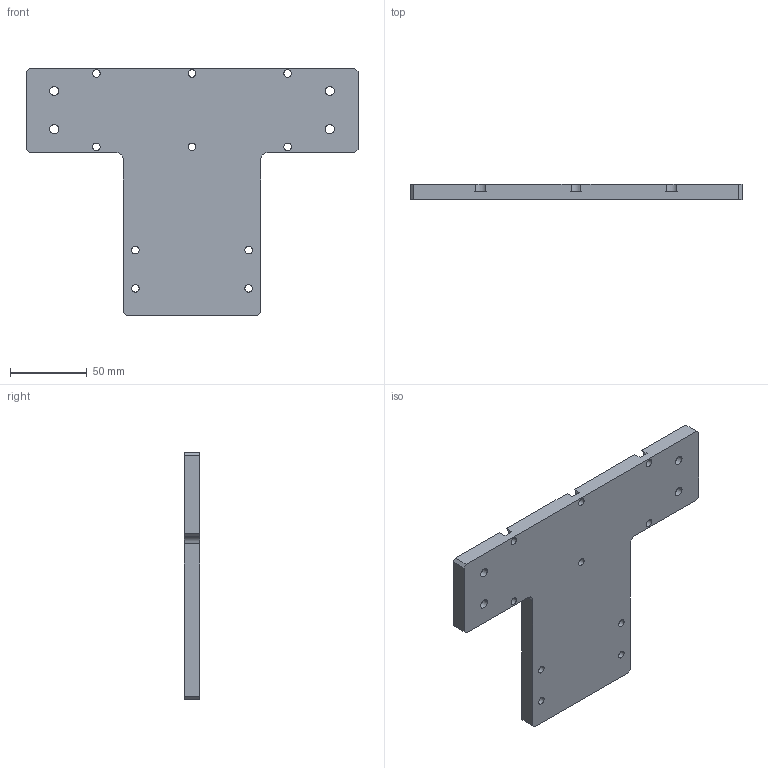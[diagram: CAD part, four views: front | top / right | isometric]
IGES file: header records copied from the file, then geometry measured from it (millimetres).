
Start section:  PTC IGES file: n60-n60m-ft.igs
Global section: file name: n60-n60m-ft.igs; native system: Pro/ENGINEER by Parametric Technology Corporation; preprocessor: 2008230; author: Owner; organization: Unknown; date: 20121212.114545; units: millimetre
Bounding box: 217 x 10 x 162 mm (x, y, z)
Surface area: 52764.3 mm2 (no closed solid volume)
Topology: 0 solids, 0 shells, 71 faces, 384 edges, 384 vertices
Faces by surface type: revolution 45, bspline 26
